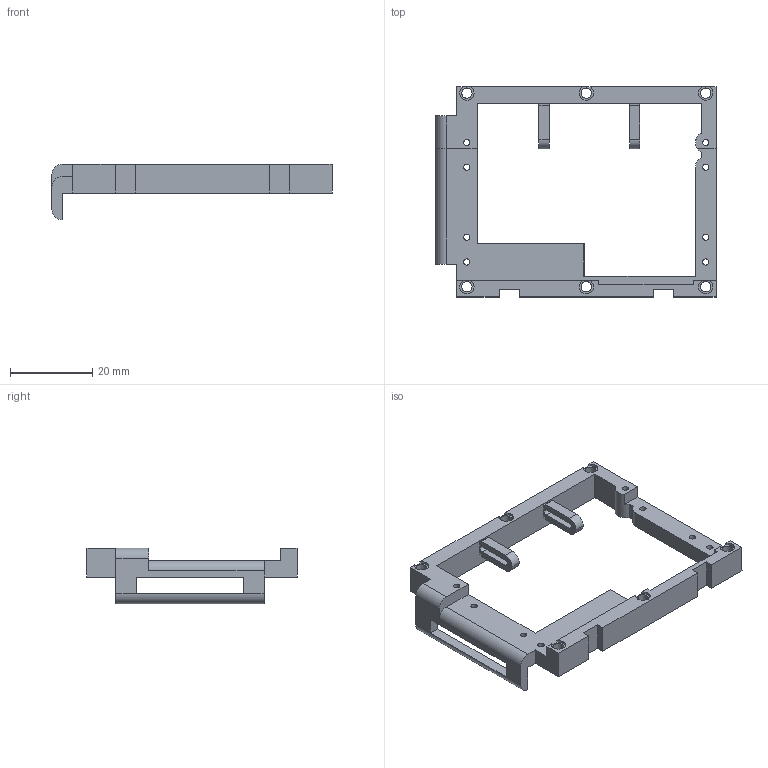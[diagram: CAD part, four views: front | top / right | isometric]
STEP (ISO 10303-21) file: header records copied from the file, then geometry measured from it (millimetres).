
FILE_DESCRIPTION(/* description */ (''),/* implementation_level */ '2;1');
FILE_NAME(/* name */ 'main_board_mount.step',/* time_stamp */ '2026-07-06T13:22:20-05:00',/* author */ (''),/* organization */ (''),/* preprocessor_version */ 'ST-DEVELOPER v20.1',/* originating_system */ 'Autodesk Translation Framework v15.8.0.0',/* authorisation */ '');
FILE_SCHEMA (('AUTOMOTIVE_DESIGN { 1 0 10303 214 3 1 1 }'));
Length unit declared in the file: millimetre
Products named in the file (1): SaturnixLite_Hull
Bounding box: 68 x 51 x 13.5 mm (x, y, z)
Volume: 7064.5 mm3; surface area: 6575.9 mm2
Topology: 1 solids, 1 shells, 107 faces, 328 edges, 214 vertices
Faces by surface type: plane 69, cylinder 38
Full cylindrical faces by diameter (mm): 1.5 x8, 2.5 x6
Entity records: 3703 total; most frequent: ORIENTED_EDGE 640, CARTESIAN_POINT 638, DIRECTION 613, EDGE_CURVE 320, LINE 243, VECTOR 243, VERTEX_POINT 210, AXIS2_PLACEMENT_3D 185
